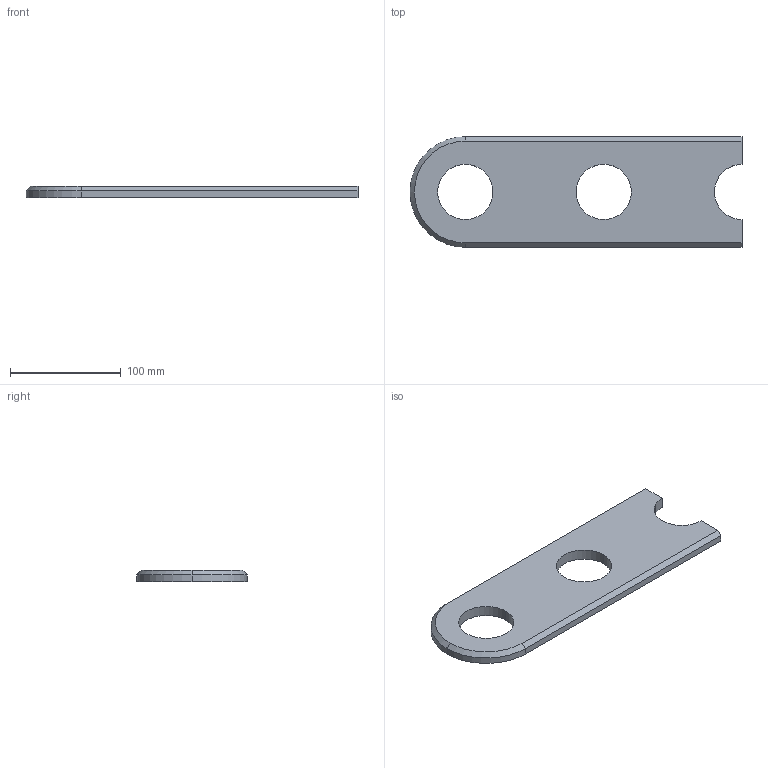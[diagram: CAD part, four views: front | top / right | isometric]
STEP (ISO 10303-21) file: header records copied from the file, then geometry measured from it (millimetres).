
FILE_DESCRIPTION(('FreeCAD Model'),'2;1');
FILE_NAME('Open CASCADE Shape Model','2024-11-03T10:25:02',(''),(''), 'Open CASCADE STEP processor 7.6','FreeCAD','Unknown');
FILE_SCHEMA(('AUTOMOTIVE_DESIGN { 1 0 10303 214 1 1 1 1 }'));
Length unit declared in the file: millimetre
Products named in the file (1): Slice.0
Bounding box: 300 x 100 x 10 mm (x, y, z)
Volume: 234959.4 mm3; surface area: 57468.2 mm2
Topology: 1 solids, 1 shells, 19 faces, 48 edges, 31 vertices
Faces by surface type: cylinder 9, plane 8, cone 2
Entity records: 1238 total; most frequent: CARTESIAN_POINT 207, DIRECTION 202, LINE 106, VECTOR 106, ORIENTED_EDGE 96, PCURVE 96, DEFINITIONAL_REPRESENTATION 96, EDGE_CURVE 48
